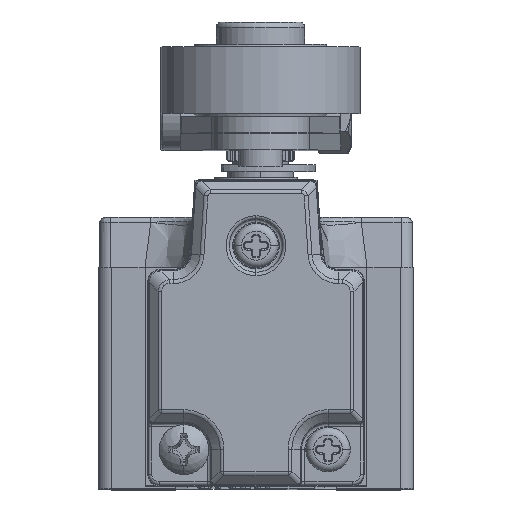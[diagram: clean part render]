
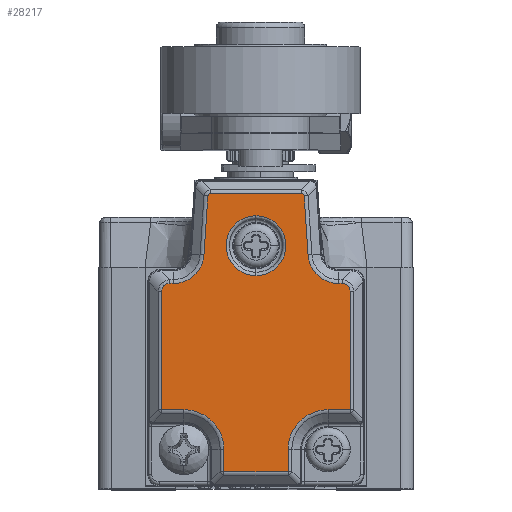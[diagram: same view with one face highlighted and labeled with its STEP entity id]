
A CAD part, top view. The second image highlights one B-rep face of the part: STEP entity #28217.
In plain terms, the highlighted planar face has unit normal (0, 0, 1).
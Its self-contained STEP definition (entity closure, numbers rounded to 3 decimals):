
#6571=DIRECTION('',(1.,0.,0.));
#6572=VECTOR('',#6571,5.787);
#6573=CARTESIAN_POINT('',(-2.894,1.512,18.4));
#6574=LINE('',#6573,#6572);
#6579=CARTESIAN_POINT('',(-7.787,18.488,18.4));
#6580=CARTESIAN_POINT('',(-7.833,18.488,18.4));
#6581=CARTESIAN_POINT('',(-7.94,18.481,18.4));
#6582=CARTESIAN_POINT('',(-8.096,18.441,18.4));
#6583=CARTESIAN_POINT('',(-8.24,18.361,18.4));
#6584=CARTESIAN_POINT('',(-8.352,18.252,18.4));
#6585=CARTESIAN_POINT('',(-8.435,18.111,18.4));
#6586=CARTESIAN_POINT('',(-8.479,17.952,18.4));
#6587=CARTESIAN_POINT('',(-8.488,17.839,18.4));
#6588=CARTESIAN_POINT('',(-8.488,17.787,18.4));
#6590=CARTESIAN_POINT('',(-7.452,21.25,18.4));
#6591=DIRECTION('',(0.,0.,-1.));
#6592=DIRECTION('',(0.998,-0.065,0.));
#6593=AXIS2_PLACEMENT_3D('',#6590,#6591,#6592);
#6595=DIRECTION('',(-0.065,-0.998,0.));
#6596=VECTOR('',#6595,5.333);
#6597=CARTESIAN_POINT('',(-4.347,26.391,18.4));
#6598=LINE('',#6597,#6596);
#6599=CARTESIAN_POINT('',(-4.137,26.588,18.4));
#6600=CARTESIAN_POINT('',(-4.18,26.588,18.4));
#6601=CARTESIAN_POINT('',(-4.253,26.571,18.4));
#6602=CARTESIAN_POINT('',(-4.327,26.495,18.4));
#6603=CARTESIAN_POINT('',(-4.344,26.429,18.4));
#6604=CARTESIAN_POINT('',(-4.347,26.391,18.4));
#6606=CARTESIAN_POINT('',(4.347,26.391,18.4));
#6607=CARTESIAN_POINT('',(4.344,26.434,18.4));
#6608=CARTESIAN_POINT('',(4.322,26.506,18.4));
#6609=CARTESIAN_POINT('',(4.242,26.575,18.4));
#6610=CARTESIAN_POINT('',(4.175,26.588,18.4));
#6611=CARTESIAN_POINT('',(4.137,26.588,18.4));
#6613=DIRECTION('',(-0.065,0.998,0.));
#6614=VECTOR('',#6613,5.333);
#6615=CARTESIAN_POINT('',(4.696,21.069,18.4));
#6616=LINE('',#6615,#6614);
#6617=CARTESIAN_POINT('',(7.452,21.25,18.4));
#6618=DIRECTION('',(0.,0.,-1.));
#6619=DIRECTION('',(0.,-1.,0.));
#6620=AXIS2_PLACEMENT_3D('',#6617,#6618,#6619);
#6622=CARTESIAN_POINT('',(8.488,17.787,18.4));
#6623=CARTESIAN_POINT('',(8.488,17.833,18.4));
#6624=CARTESIAN_POINT('',(8.481,17.94,18.4));
#6625=CARTESIAN_POINT('',(8.441,18.096,18.4));
#6626=CARTESIAN_POINT('',(8.361,18.24,18.4));
#6627=CARTESIAN_POINT('',(8.252,18.352,18.4));
#6628=CARTESIAN_POINT('',(8.111,18.435,18.4));
#6629=CARTESIAN_POINT('',(7.952,18.479,18.4));
#6630=CARTESIAN_POINT('',(7.839,18.488,18.4));
#6631=CARTESIAN_POINT('',(7.787,18.488,18.4));
#6633=CARTESIAN_POINT('',(6.5,3.5,18.4));
#6634=DIRECTION('',(0.,0.,-1.));
#6635=DIRECTION('',(-1.,0.,0.));
#6636=AXIS2_PLACEMENT_3D('',#6633,#6634,#6635);
#6638=CARTESIAN_POINT('',(-6.5,3.5,18.4));
#6639=DIRECTION('',(0.,0.,-1.));
#6640=DIRECTION('',(0.,1.,0.));
#6641=AXIS2_PLACEMENT_3D('',#6638,#6639,#6640);
#6643=DIRECTION('',(1.,0.,0.));
#6644=VECTOR('',#6643,1.988);
#6645=CARTESIAN_POINT('',(-8.488,7.106,18.4));
#6646=LINE('',#6645,#6644);
#6666=DIRECTION('',(0.,-1.,0.));
#6667=VECTOR('',#6666,1.988);
#6668=CARTESIAN_POINT('',(-2.894,3.5,18.4));
#6669=LINE('',#6668,#6667);
#7023=DIRECTION('',(-1.,0.,0.));
#7024=VECTOR('',#7023,8.274);
#7025=CARTESIAN_POINT('',(4.137,26.588,18.4));
#7026=LINE('',#7025,#7024);
#7067=DIRECTION('',(-1.,0.,0.));
#7068=VECTOR('',#7067,0.335);
#7069=CARTESIAN_POINT('',(-7.452,18.488,18.4));
#7070=LINE('',#7069,#7068);
#7093=DIRECTION('',(0.,-1.,0.));
#7094=VECTOR('',#7093,10.68);
#7095=CARTESIAN_POINT('',(-8.488,17.787,18.4));
#7096=LINE('',#7095,#7094);
#7329=DIRECTION('',(-1.,0.,0.));
#7330=VECTOR('',#7329,0.335);
#7331=CARTESIAN_POINT('',(7.787,18.488,18.4));
#7332=LINE('',#7331,#7330);
#7377=DIRECTION('',(0.,1.,0.));
#7378=VECTOR('',#7377,10.68);
#7379=CARTESIAN_POINT('',(8.488,7.106,18.4));
#7380=LINE('',#7379,#7378);
#7422=DIRECTION('',(1.,0.,0.));
#7423=VECTOR('',#7422,1.988);
#7424=CARTESIAN_POINT('',(6.5,7.106,18.4));
#7425=LINE('',#7424,#7423);
#7457=DIRECTION('',(0.,1.,0.));
#7458=VECTOR('',#7457,1.988);
#7459=CARTESIAN_POINT('',(2.894,1.512,18.4));
#7460=LINE('',#7459,#7458);
#7752=CARTESIAN_POINT('',(0.,21.9,18.4));
#7753=DIRECTION('',(0.,0.,-1.));
#7754=DIRECTION('',(0.,-1.,0.));
#7755=AXIS2_PLACEMENT_3D('',#7752,#7753,#7754);
#7757=CARTESIAN_POINT('',(0.,21.9,18.4));
#7758=DIRECTION('',(0.,0.,-1.));
#7759=DIRECTION('',(0.,1.,0.));
#7760=AXIS2_PLACEMENT_3D('',#7757,#7758,#7759);
#18199=CARTESIAN_POINT('',(-8.488,7.106,18.4));
#18200=CARTESIAN_POINT('',(-6.5,7.106,18.4));
#18201=VERTEX_POINT('',#18199);
#18202=VERTEX_POINT('',#18200);
#18203=CARTESIAN_POINT('',(-8.488,17.787,18.4));
#18204=VERTEX_POINT('',#18203);
#18205=VERTEX_POINT('',#6579);
#18206=CARTESIAN_POINT('',(-7.452,18.488,18.4));
#18207=VERTEX_POINT('',#18206);
#18208=CARTESIAN_POINT('',(-4.696,21.069,18.4));
#18209=VERTEX_POINT('',#18208);
#18210=CARTESIAN_POINT('',(-4.347,26.391,
18.4));
#18211=VERTEX_POINT('',#18210);
#18212=VERTEX_POINT('',#6599);
#18213=CARTESIAN_POINT('',(4.137,26.588,18.4));
#18214=VERTEX_POINT('',#18213);
#18215=VERTEX_POINT('',#6606);
#18216=CARTESIAN_POINT('',(4.696,21.069,18.4));
#18217=VERTEX_POINT('',#18216);
#18218=CARTESIAN_POINT('',(7.452,18.488,18.4));
#18219=VERTEX_POINT('',#18218);
#18220=CARTESIAN_POINT('',(7.787,18.488,18.4));
#18221=VERTEX_POINT('',#18220);
#18222=VERTEX_POINT('',#6622);
#18223=CARTESIAN_POINT('',(8.488,7.106,18.4));
#18224=VERTEX_POINT('',#18223);
#18225=CARTESIAN_POINT('',(6.5,7.106,18.4));
#18226=VERTEX_POINT('',#18225);
#18227=CARTESIAN_POINT('',(2.894,3.5,18.4));
#18228=VERTEX_POINT('',#18227);
#18229=CARTESIAN_POINT('',(2.894,1.512,18.4));
#18230=VERTEX_POINT('',#18229);
#18231=CARTESIAN_POINT('',(-2.894,1.512,18.4));
#18232=VERTEX_POINT('',#18231);
#18233=CARTESIAN_POINT('',(-2.894,3.5,18.4));
#18234=VERTEX_POINT('',#18233);
#18872=CARTESIAN_POINT('',(0.,24.6,18.4));
#18873=VERTEX_POINT('',#18872);
#18874=CARTESIAN_POINT('',(0.,19.2,18.4));
#18875=VERTEX_POINT('',#18874);
#28165=CARTESIAN_POINT('',(0.,14.05,18.4));
#28166=DIRECTION('',(0.,0.,1.));
#28167=DIRECTION('',(0.,1.,0.));
#28168=AXIS2_PLACEMENT_3D('',#28165,#28166,#28167);
#28169=PLANE('',#28168);
#28171=ORIENTED_EDGE('',*,*,#28170,.F.);
#28173=ORIENTED_EDGE('',*,*,#28172,.F.);
#28175=ORIENTED_EDGE('',*,*,#28174,.F.);
#28177=ORIENTED_EDGE('',*,*,#28176,.F.);
#28179=ORIENTED_EDGE('',*,*,#28178,.F.);
#28181=ORIENTED_EDGE('',*,*,#28180,.F.);
#28183=ORIENTED_EDGE('',*,*,#28182,.F.);
#28185=ORIENTED_EDGE('',*,*,#28184,.F.);
#28187=ORIENTED_EDGE('',*,*,#28186,.F.);
#28189=ORIENTED_EDGE('',*,*,#28188,.F.);
#28191=ORIENTED_EDGE('',*,*,#28190,.F.);
#28193=ORIENTED_EDGE('',*,*,#28192,.F.);
#28195=ORIENTED_EDGE('',*,*,#28194,.F.);
#28197=ORIENTED_EDGE('',*,*,#28196,.F.);
#28199=ORIENTED_EDGE('',*,*,#28198,.F.);
#28201=ORIENTED_EDGE('',*,*,#28200,.F.);
#28203=ORIENTED_EDGE('',*,*,#28202,.F.);
#28204=ORIENTED_EDGE('',*,*,#28155,.F.);
#28206=ORIENTED_EDGE('',*,*,#28205,.F.);
#28208=ORIENTED_EDGE('',*,*,#28207,.F.);
#28209=EDGE_LOOP('',(#28171,#28173,#28175,#28177,#28179,#28181,#28183,#28185,
#28187,#28189,#28191,#28193,#28195,#28197,#28199,#28201,#28203,#28204,#28206,
#28208));
#28210=FACE_OUTER_BOUND('',#28209,.F.);
#28212=ORIENTED_EDGE('',*,*,#28211,.F.);
#28214=ORIENTED_EDGE('',*,*,#28213,.F.);
#28215=EDGE_LOOP('',(#28212,#28214));
#28216=FACE_BOUND('',#28215,.F.);
#28217=ADVANCED_FACE('',(#28210,#28216),#28169,.T.);
#6589=B_SPLINE_CURVE_WITH_KNOTS('',3,(#6579,#6580,#6581,#6582,#6583,#6584,#6585,
#6586,#6587,#6588),.UNSPECIFIED.,.F.,.F.,(4,1,1,1,1,1,1,4),(0.,
0.12,0.28,0.424,0.562,
0.705,0.864,1.),.UNSPECIFIED.);
#6594=CIRCLE('',#6593,2.762);
#6605=B_SPLINE_CURVE_WITH_KNOTS('',3,(#6599,#6600,#6601,#6602,#6603,#6604),
.UNSPECIFIED.,.F.,.F.,(4,1,1,4),(0.,0.333,0.667,1.),
.UNSPECIFIED.);
#6612=B_SPLINE_CURVE_WITH_KNOTS('',3,(#6606,#6607,#6608,#6609,#6610,#6611),
.UNSPECIFIED.,.F.,.F.,(4,1,1,4),(0.,0.333,0.667,1.),
.UNSPECIFIED.);
#6621=CIRCLE('',#6620,2.762);
#6632=B_SPLINE_CURVE_WITH_KNOTS('',3,(#6622,#6623,#6624,#6625,#6626,#6627,#6628,
#6629,#6630,#6631),.UNSPECIFIED.,.F.,.F.,(4,1,1,1,1,1,1,4),(0.,
0.12,0.28,0.424,0.562,
0.705,0.864,1.),.UNSPECIFIED.);
#6637=CIRCLE('',#6636,3.606);
#6642=CIRCLE('',#6641,3.606);
#7756=CIRCLE('',#7755,2.7);
#7761=CIRCLE('',#7760,2.7);
#28155=EDGE_CURVE('',#18232,#18230,#6574,.T.);
#28170=EDGE_CURVE('',#18201,#18202,#6646,.T.);
#28172=EDGE_CURVE('',#18204,#18201,#7096,.T.);
#28174=EDGE_CURVE('',#18205,#18204,#6589,.T.);
#28176=EDGE_CURVE('',#18207,#18205,#7070,.T.);
#28178=EDGE_CURVE('',#18209,#18207,#6594,.T.);
#28180=EDGE_CURVE('',#18211,#18209,#6598,.T.);
#28182=EDGE_CURVE('',#18212,#18211,#6605,.T.);
#28184=EDGE_CURVE('',#18214,#18212,#7026,.T.);
#28186=EDGE_CURVE('',#18215,#18214,#6612,.T.);
#28188=EDGE_CURVE('',#18217,#18215,#6616,.T.);
#28190=EDGE_CURVE('',#18219,#18217,#6621,.T.);
#28192=EDGE_CURVE('',#18221,#18219,#7332,.T.);
#28194=EDGE_CURVE('',#18222,#18221,#6632,.T.);
#28196=EDGE_CURVE('',#18224,#18222,#7380,.T.);
#28198=EDGE_CURVE('',#18226,#18224,#7425,.T.);
#28200=EDGE_CURVE('',#18228,#18226,#6637,.T.);
#28202=EDGE_CURVE('',#18230,#18228,#7460,.T.);
#28205=EDGE_CURVE('',#18234,#18232,#6669,.T.);
#28207=EDGE_CURVE('',#18202,#18234,#6642,.T.);
#28211=EDGE_CURVE('',#18875,#18873,#7756,.T.);
#28213=EDGE_CURVE('',#18873,#18875,#7761,.T.);
